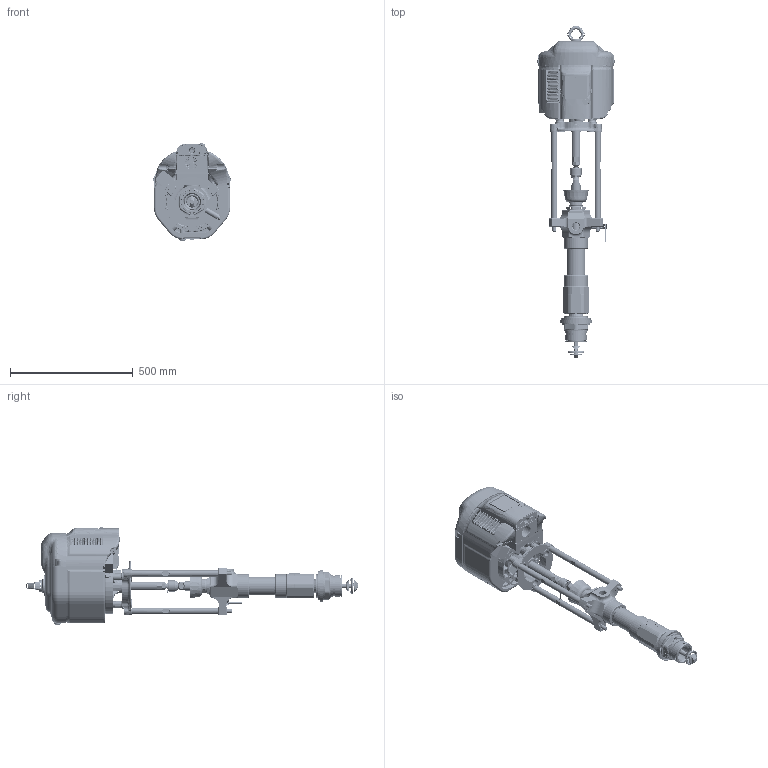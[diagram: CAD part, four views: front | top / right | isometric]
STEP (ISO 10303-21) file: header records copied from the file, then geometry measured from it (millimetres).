
FILE_DESCRIPTION((''),'2;1');
FILE_NAME('P23LCS-EN-F_PRT','2020-05-28T13:57:22',('qusrh3'),(''),'CREO PARAMETRIC BY PTC INC, 2019030','CREO PARAMETRIC BY PTC INC, 2019030','');
FILE_SCHEMA(('CONFIG_CONTROL_DESIGN'));
Products named in the file (1): P23LCS-EN-F_PRT
Bounding box: 314.71 x 1349.71 x 394.37 mm (x, y, z)
Surface area: 2978913.5 mm2 (no closed solid volume)
Topology: 0 solids, 602 shells, 4947 faces, 22417 edges, 17415 vertices
Faces by surface type: plane 1597, cylinder 1262, bspline 739, torus 676, cone 653, sphere 12, extrusion 8
Entity records: 293033 total; most frequent: CARTESIAN_POINT 134362, ORIENTED_EDGE 30335, DIRECTION 28058, EDGE_CURVE 22409, VERTEX_POINT 17415, AXIS2_PLACEMENT_3D 10331, B_SPLINE_CURVE_WITH_KNOTS 8898, VECTOR 7396
